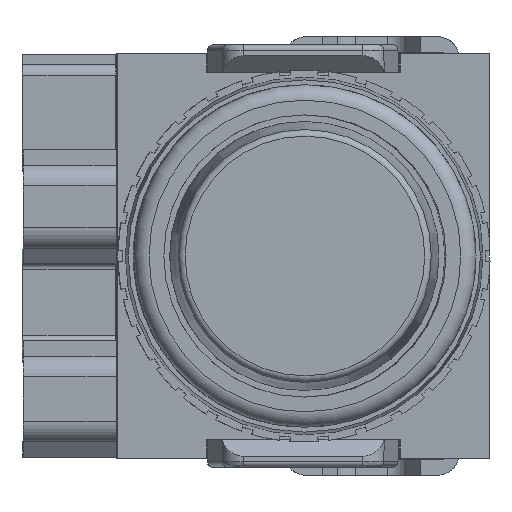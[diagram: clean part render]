
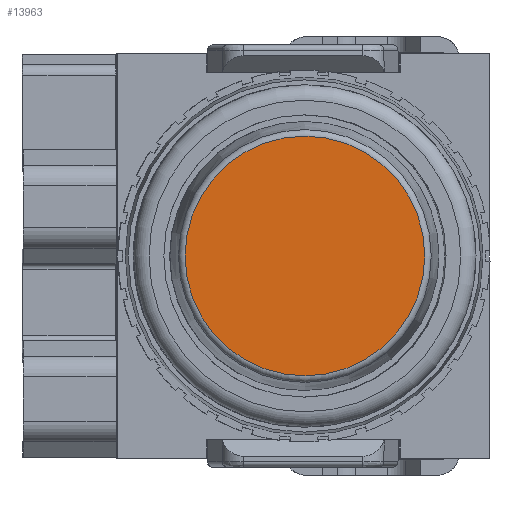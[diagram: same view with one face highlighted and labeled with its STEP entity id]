
A CAD part, front view. The second image highlights one B-rep face of the part: STEP entity #13963.
In plain terms, the highlighted planar face has unit normal (0.005, -1, 0) as drawn and (0, 1, 0) by its records, which use the part's own axes.
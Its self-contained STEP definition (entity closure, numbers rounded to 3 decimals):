
#715=CIRCLE('',#15186,10.958);
#1624=FACE_OUTER_BOUND('',#2457,.T.);
#2457=EDGE_LOOP('',(#12653));
#6788=VERTEX_POINT('',#23570);
#8743=EDGE_CURVE('',#6788,#6788,#715,.T.);
#12653=ORIENTED_EDGE('',*,*,#8743,.F.);
#13214=PLANE('',#15187);
#13963=ADVANCED_FACE('',(#1624),#13214,.T.);
#15186=AXIS2_PLACEMENT_3D('',#23571,#19113,#19114);
#15187=AXIS2_PLACEMENT_3D('',#23572,#19115,#19116);
#19113=DIRECTION('center_axis',(0.,-1.,0.));
#19114=DIRECTION('ref_axis',(-1.,0.,0.));
#19115=DIRECTION('center_axis',(0.,1.,0.));
#19116=DIRECTION('ref_axis',(0.,0.,1.));
#23570=CARTESIAN_POINT('',(10.958,13.8,0.));
#23571=CARTESIAN_POINT('Origin',(0.,13.8,0.));
#23572=CARTESIAN_POINT('Origin',(11.5,13.8,0.));
